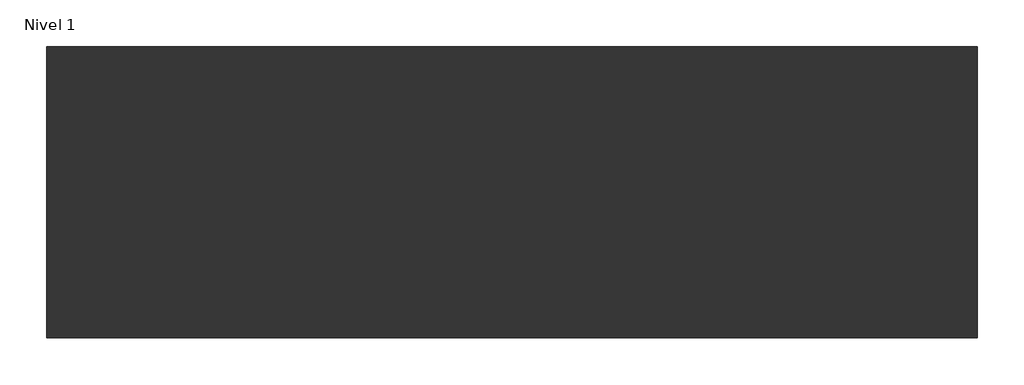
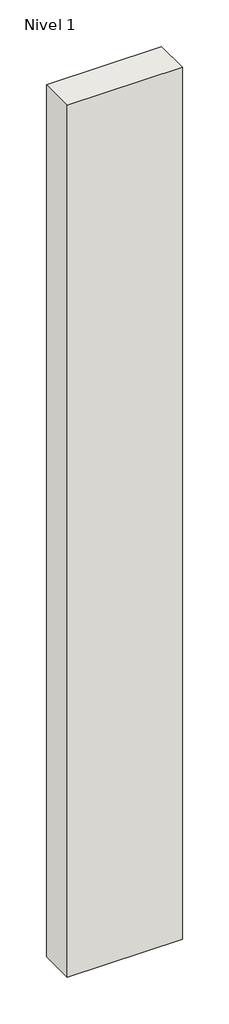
# One storey: 1 wall.
"""IFC4 building model written with IfcOpenShell, lengths in millimetres."""

from ifc_helpers import new_model, si_unit, origin, origin_with_axes, place, context, project, spatial, polyline, outline, extrude, element, save

model = new_model("IFC4")

# Units and contexts
model_context = context("Model", 3, world=origin())
ifc_project = project(units=[si_unit("LENGTHUNIT", "METRE", prefix="MILLI")], contexts=[model_context])

# Site, building, storey
site = spatial("IfcSite", under=ifc_project)
building = spatial("IfcBuilding", under=site)
storey = spatial("IfcBuildingStorey", under=building, Name="Nivel 1", Elevation=0.0)

# Wall
placement = place(None, origin())
element("IfcWall", 1, ObjectType="Piedra natural + aisl. poliuretano + LC 1/2 pie + yeso", at=placement, inside=storey, context=model_context, shape_type="SweptSolid", body=[
    extrude(outline(polyline([(-3167.1347582, 3500.4505819), (-4167.1347582, 3500.4505819), (-4167.1347582, 3813.4505819), (-3167.1347582, 3813.4505819), (-3167.1347582, 3500.4505819)])), origin_with_axes(), (0.0, 0.0, 1.0), 8000.0),
])

save(model, "model.ifc")
